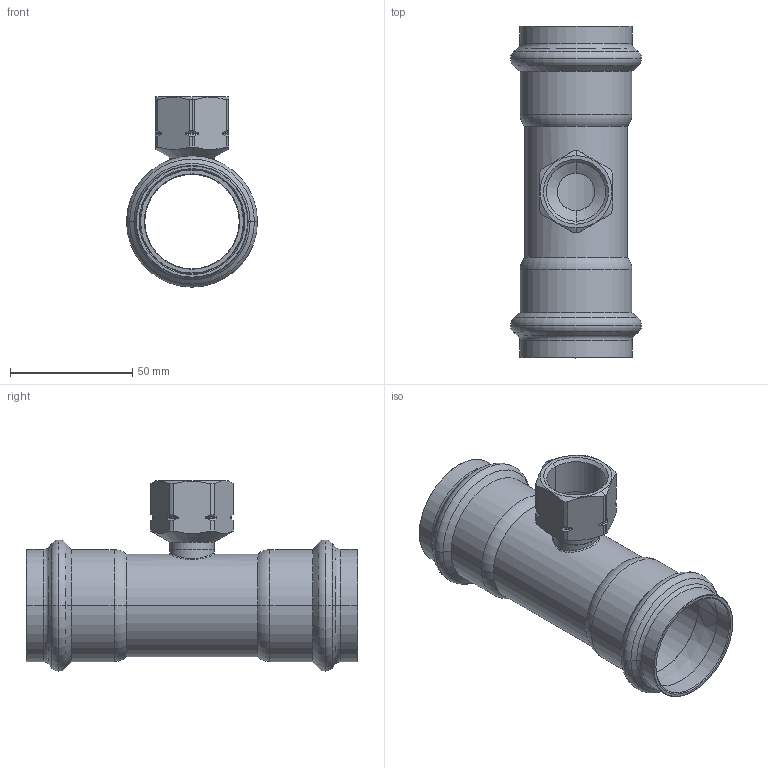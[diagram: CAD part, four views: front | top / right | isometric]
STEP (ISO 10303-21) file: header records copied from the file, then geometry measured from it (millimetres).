
FILE_DESCRIPTION(('CoCreate Modeling STEP Export'),'2;1');
FILE_NAME('8130GVW423442.stp','2013-03-05T 9:05:56',(''),(''),'CoCreate Modeling STEP processor for AP214 (Solid Model)','CoCreate Modeling 17.00A 17-Jun-2010 (C) Parametric Technology GmbH','');
FILE_SCHEMA(('AUTOMOTIVE_DESIGN { 1 0 10303 214 1 1 1 1 }'));
Length unit declared in the file: millimetre
Products named in the file (2): 8130GVW423442
Assembly tree (1 placements, depth 2):
  8130GVW423442
    8130GVW423442
Bounding box: 53.61 x 135.73 x 77.81 mm (x, y, z)
Volume: 47312 mm3; surface area: 44145 mm2
Topology: 1 solids, 1 shells, 156 faces, 366 edges, 218 vertices
Faces by surface type: cylinder 50, torus 44, cone 44, plane 14, bspline 4
Entity records: 9171 total; most frequent: CARTESIAN_POINT 6210, ORIENTED_EDGE 732, DIRECTION 446, EDGE_CURVE 366, VERTEX_POINT 218, AXIS2_PLACEMENT_3D 182, EDGE_LOOP 166, FACE_OUTER_BOUND 156
